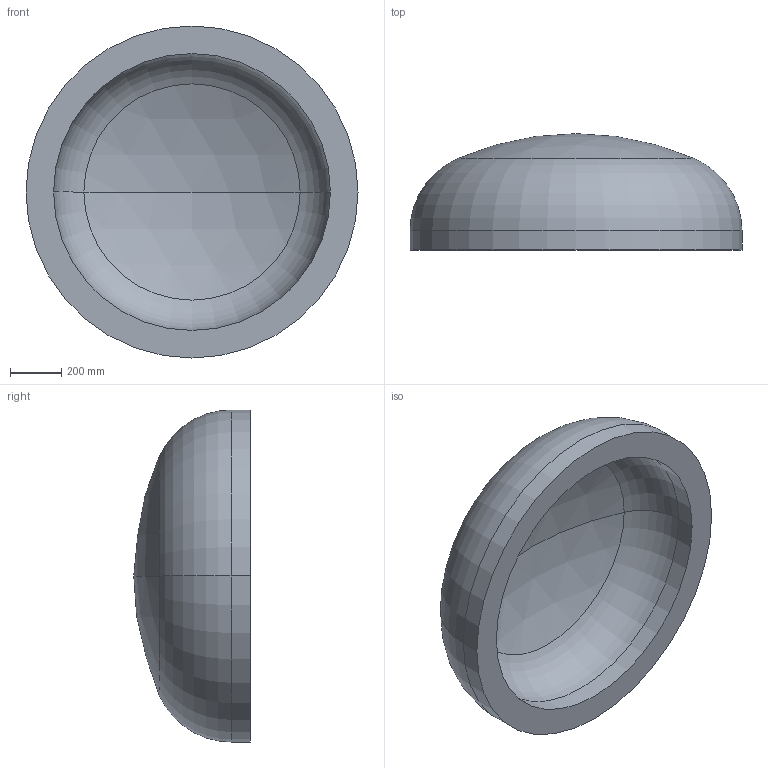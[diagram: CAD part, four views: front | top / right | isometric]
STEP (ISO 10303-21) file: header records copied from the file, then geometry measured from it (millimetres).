
FILE_DESCRIPTION (( 'STEP AP203' ), '1' );
FILE_NAME ('DIN 28013 Korbbogenform_-_Boden DIN 28013 - 1300 x 75 - I - s=108.step', '2016-07-01T10:03:07', ( '' ), ( '' ), 'SwSTEP 2.0', 'SolidWorks 2013', '' );
FILE_SCHEMA (( 'CONFIG_CONTROL_DESIGN' ));
Length unit declared in the file: millimetre
Products named in the file (1): DIN 28013 Korbbogenform_-_Boden DIN 28013 - 1300 x 75 - I - s=108
Bounding box: 1300 x 455.77 x 1300 mm (x, y, z)
Volume: 209216391.4 mm3; surface area: 4303241.9 mm2
Topology: 1 solids, 1 shells, 13 faces, 24 edges, 14 vertices
Faces by surface type: torus 4, cylinder 4, sphere 4, plane 1
Entity records: 407 total; most frequent: DIRECTION 72, CARTESIAN_POINT 52, ORIENTED_EDGE 48, AXIS2_PLACEMENT_3D 34, EDGE_CURVE 24, CIRCLE 20, EDGE_LOOP 14, VERTEX_POINT 14
